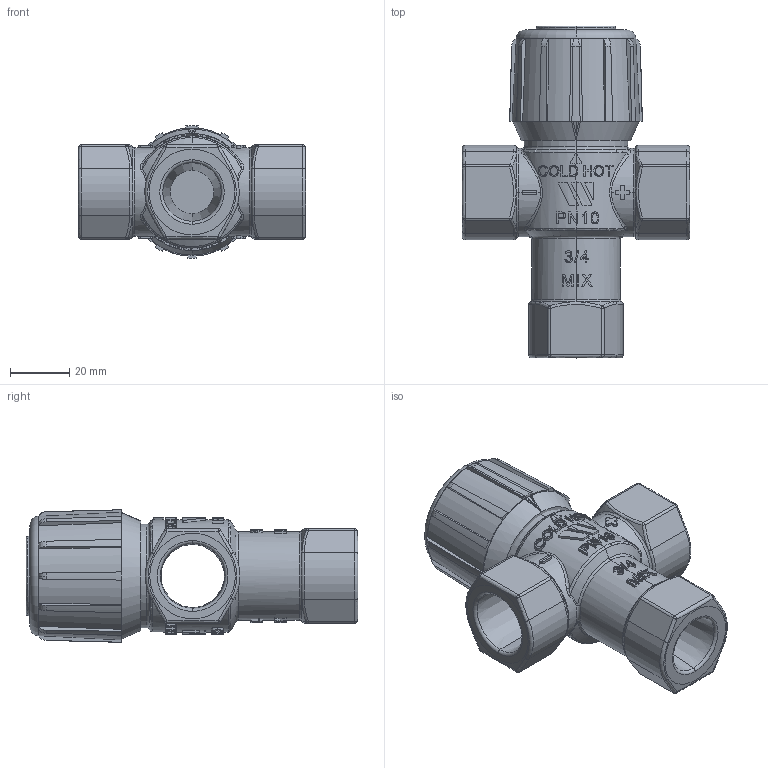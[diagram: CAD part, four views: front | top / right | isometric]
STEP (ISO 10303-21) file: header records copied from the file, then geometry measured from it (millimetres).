
FILE_DESCRIPTION (( 'STEP AP214' ), '1' );
FILE_NAME ('6310C34.STEP', '2014-06-11T06:42:59', ( 'Adminwatts' ), ( 'Microsoft' ), 'SwSTEP 2.0', 'SolidWorks 2014', '' );
FILE_SCHEMA (( 'AUTOMOTIVE_DESIGN' ));
Length unit declared in the file: millimetre
Products named in the file (1): 6310C34
Bounding box: 77.1 x 112.49 x 44.99 mm (x, y, z)
Surface area: 27180.7 mm2 (no closed solid volume)
Topology: 0 solids, 2 shells, 804 faces, 2134 edges, 1360 vertices
Faces by surface type: plane 315, bspline 213, cylinder 140, torus 53, cone 51, sphere 32
Entity records: 43790 total; most frequent: CARTESIAN_POINT 17331, ORIENTED_EDGE 4154, DIRECTION 2956, EDGE_CURVE 2134, VERTEX_POINT 1360, AXIS2_PLACEMENT_3D 1105, EDGE_LOOP 854, UNCERTAINTY_MEASURE_WITH_UNIT 806
